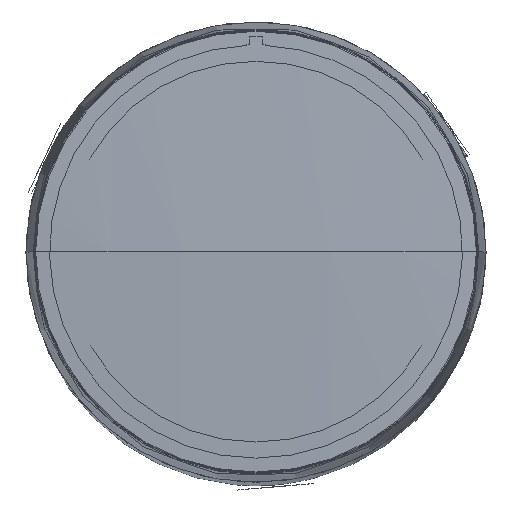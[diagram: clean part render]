
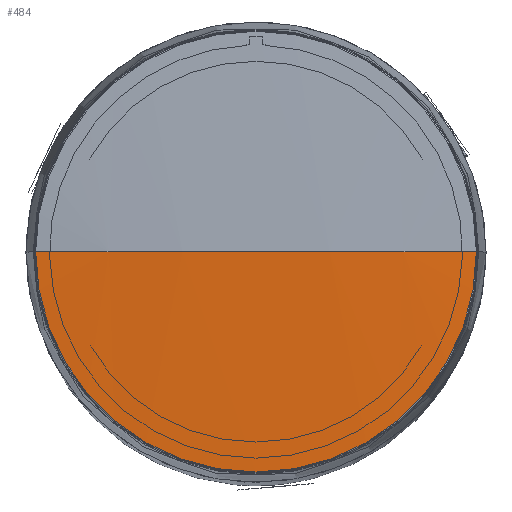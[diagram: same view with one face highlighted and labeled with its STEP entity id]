
A CAD part, top view. The second image highlights one B-rep face of the part: STEP entity #484.
In plain terms, the highlighted spherical face has radius 425.223 mm.
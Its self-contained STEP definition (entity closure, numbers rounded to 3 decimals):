
#127=CARTESIAN_POINT('',(0.,0.,-418.223));
#128=DIRECTION('',(0.,-1.,0.));
#129=DIRECTION('',(0.,0.,1.));
#130=AXIS2_PLACEMENT_3D('',#127,#128,#129);
#132=CARTESIAN_POINT('',(0.,0.,-418.223));
#133=DIRECTION('',(0.,1.,0.));
#134=DIRECTION('',(0.,0.,1.));
#135=AXIS2_PLACEMENT_3D('',#132,#133,#134);
#202=CARTESIAN_POINT('',(0.,0.,6.013));
#203=DIRECTION('',(0.,0.,-1.));
#204=DIRECTION('',(1.,0.,0.));
#205=AXIS2_PLACEMENT_3D('',#202,#203,#204);
#353=CARTESIAN_POINT('',(0.,0.,7.));
#354=CARTESIAN_POINT('',(28.962,0.,6.013));
#355=VERTEX_POINT('',#353);
#356=VERTEX_POINT('',#354);
#357=CARTESIAN_POINT('',(-28.962,0.,6.013));
#358=VERTEX_POINT('',#357);
#473=CARTESIAN_POINT('',(0.,0.,-418.223));
#474=DIRECTION('',(0.,0.,-1.));
#475=DIRECTION('',(-1.,0.,0.));
#476=AXIS2_PLACEMENT_3D('',#473,#474,#475);
#477=SPHERICAL_SURFACE('',#476,425.223);
#479=ORIENTED_EDGE('',*,*,#478,.T.);
#480=ORIENTED_EDGE('',*,*,#468,.F.);
#481=ORIENTED_EDGE('',*,*,#466,.T.);
#482=EDGE_LOOP('',(#479,#480,#481));
#483=FACE_OUTER_BOUND('',#482,.F.);
#484=ADVANCED_FACE('',(#483),#477,.T.);
#131=CIRCLE('',#130,425.223);
#136=CIRCLE('',#135,425.223);
#206=CIRCLE('',#205,28.962);
#466=EDGE_CURVE('',#355,#356,#136,.T.);
#468=EDGE_CURVE('',#355,#358,#131,.T.);
#478=EDGE_CURVE('',#356,#358,#206,.T.);
